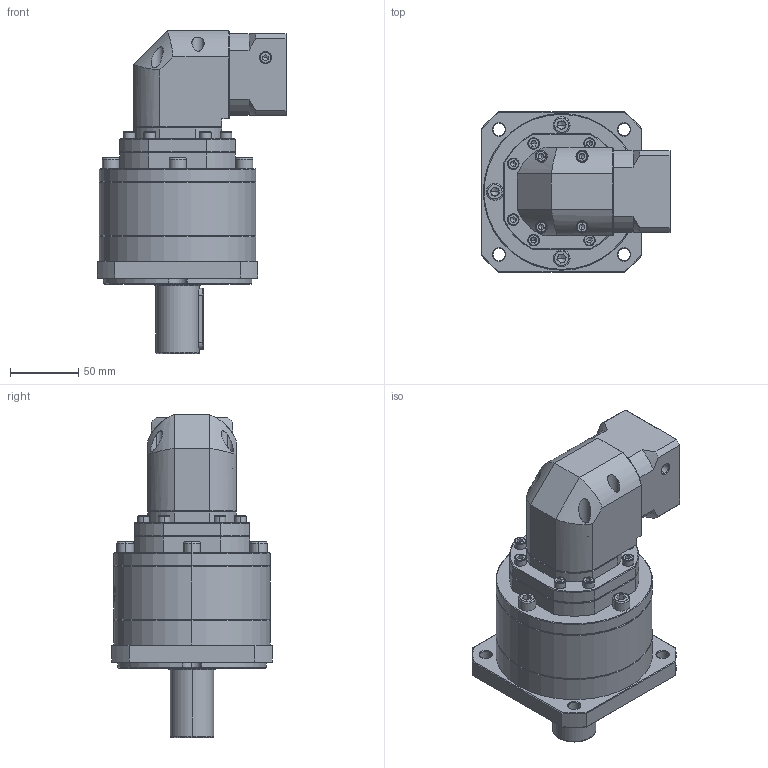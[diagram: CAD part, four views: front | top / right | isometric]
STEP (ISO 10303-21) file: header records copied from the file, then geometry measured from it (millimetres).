
FILE_DESCRIPTION (( 'STEP AP214' ), '1' );
FILE_NAME ('ZFR120A-D32-L3-P2-8-30-46-M4.step', '2023-08-27T09:50:26', ( '' ), ( '' ), 'SwSTEP 2.0', 'SolidWorks 2016', '' );
FILE_SCHEMA (( 'AUTOMOTIVE_DESIGN' ));
Length unit declared in the file: millimetre
Products named in the file (1): ZFR120A-D32-L3-P2-8-30-46-M4
Bounding box: 139.2 x 118 x 237.5 mm (x, y, z)
Volume: 1490184.4 mm3; surface area: 142201.2 mm2
Topology: 6 solids, 6 shells, 2479 faces, 6622 edges, 4264 vertices
Faces by surface type: plane 1170, bspline 499, cylinder 446, cone 344, torus 20
Entity records: 147227 total; most frequent: CARTESIAN_POINT 63982, ORIENTED_EDGE 13152, DIRECTION 9630, EDGE_CURVE 6576, VERTEX_POINT 4264, VECTOR 3398, LINE 3398, AXIS2_PLACEMENT_3D 3116
